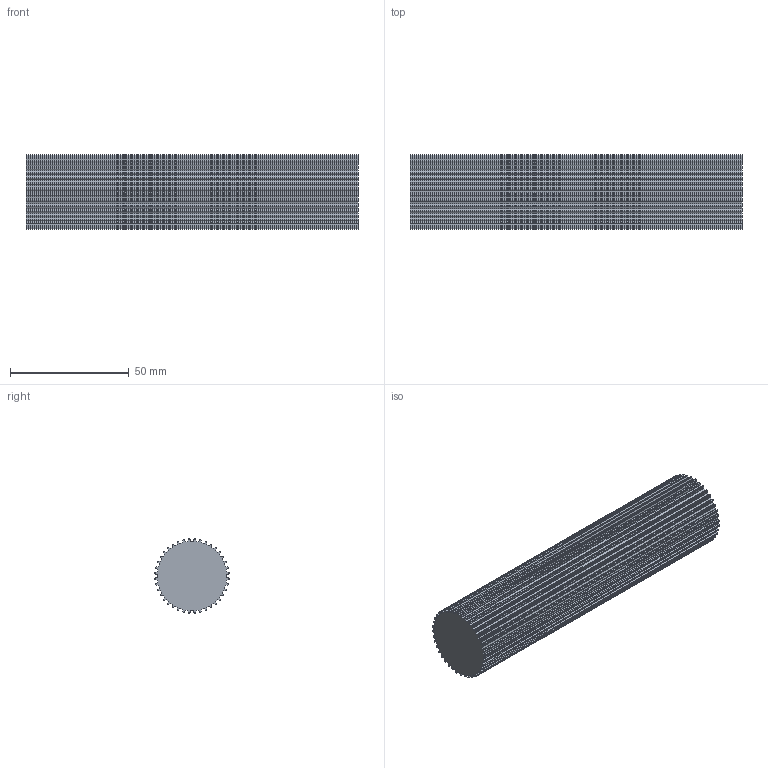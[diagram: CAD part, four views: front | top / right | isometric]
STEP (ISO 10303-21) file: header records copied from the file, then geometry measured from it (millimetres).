
FILE_DESCRIPTION( ( 'STEP AP214' ), '1' );
FILE_NAME( 'C:/Users/StangenbergN/Documents/CAD_Step/1/16094000.stp', '2019-07-25T19:42:10', ( '' ), ( '' ), ' ', 'PARTsolutions', ' ' );
FILE_SCHEMA( ( 'AUTOMOTIVE_DESIGN { 1 0 10303 214 1 1 1 1 }' ) );
Length unit declared in the file: millimetre
Products named in the file (1): _16094000
Bounding box: 140 x 31.25 x 31.25 mm (x, y, z)
Volume: 99635 mm3; surface area: 21713.1 mm2
Topology: 1 solids, 1 shells, 322 faces, 960 edges, 640 vertices
Faces by surface type: cylinder 200, plane 122
Entity records: 13576 total; most frequent: DIRECTION 2006, CARTESIAN_POINT 1923, ORIENTED_EDGE 1920, EDGE_CURVE 960, AXIS2_PLACEMENT_3D 723, VERTEX_POINT 640, LINE 560, VECTOR 560
